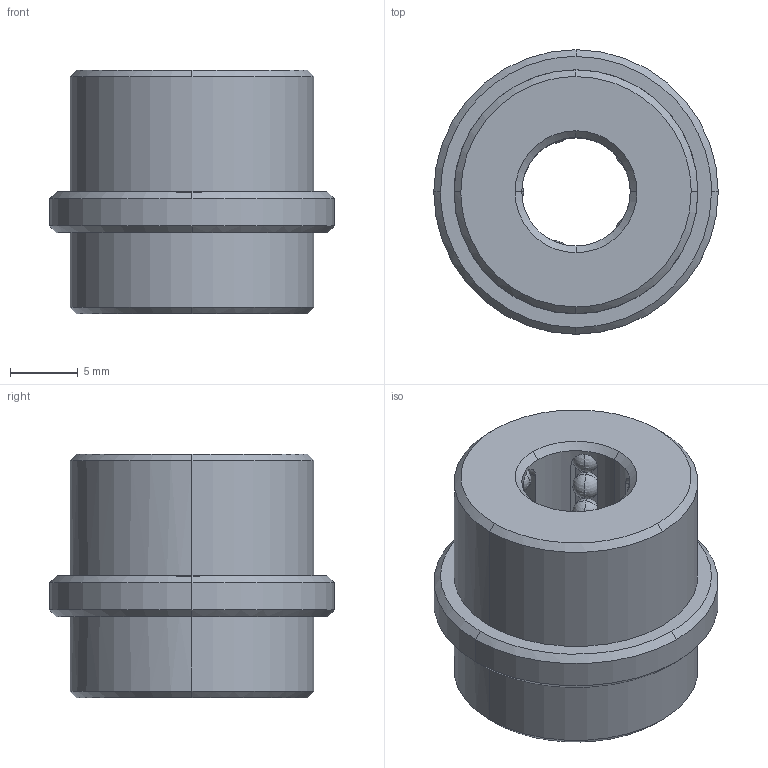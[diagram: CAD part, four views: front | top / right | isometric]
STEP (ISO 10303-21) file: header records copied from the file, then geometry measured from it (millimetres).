
FILE_DESCRIPTION(('CATIA V5 STEP Exchange'),'2;1');
FILE_NAME('C:\Users\Raffaele\Desktop\3D BOLEX\3D FILES CF BOLEX\2-BUSH REF 802\B8020812.stp','2019-06-19T14:00:37+00:00',('none'),('none'),'CATIA Version 5 Release 20 GA (IN-10)','CATIA V5 STEP AP203','none');
FILE_SCHEMA(('CONFIG_CONTROL_DESIGN'));
Length unit declared in the file: millimetre
Products named in the file (1): B8020812
Bounding box: 21 x 21 x 18 mm (x, y, z)
Volume: 3759.3 mm3; surface area: 2786.5 mm2
Topology: 36 solids, 36 shells, 201 faces, 567 edges, 164 vertices
Faces by surface type: sphere 140, cone 24, plane 19, cylinder 18
Entity records: 4522 total; most frequent: CARTESIAN_POINT 1176, DIRECTION 648, ORIENTED_EDGE 574, AXIS2_PLACEMENT_3D 375, EDGE_CURVE 287, EDGE_LOOP 209, ADVANCED_FACE 201, FACE_OUTER_BOUND 201
